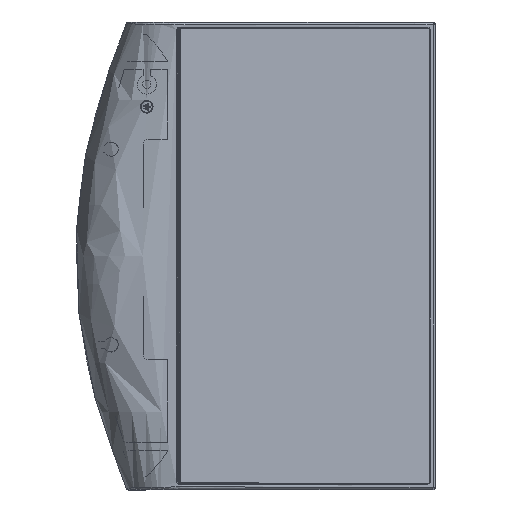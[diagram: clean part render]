
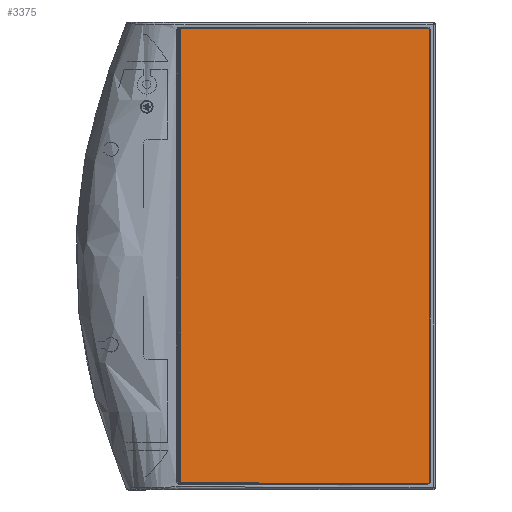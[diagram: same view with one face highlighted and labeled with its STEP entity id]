
A CAD part, top view. The second image highlights one B-rep face of the part: STEP entity #3375.
In plain terms, the highlighted planar face has unit normal (0.087, 0, 0.996).
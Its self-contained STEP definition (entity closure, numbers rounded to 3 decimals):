
#1645=PLANE('',#30589);
#3375=ADVANCED_FACE('',(#4993),#1645,.T.);
#4993=FACE_OUTER_BOUND('',#6684,.T.);
#6684=EDGE_LOOP('',(#10178,#10179,#10180,#10181));
#10178=ORIENTED_EDGE('',*,*,#17154,.F.);
#10179=ORIENTED_EDGE('',*,*,#17158,.F.);
#10180=ORIENTED_EDGE('',*,*,#17157,.T.);
#10181=ORIENTED_EDGE('',*,*,#17156,.T.);
#17154=EDGE_CURVE('',#27090,#27096,#21853,.T.);
#17156=EDGE_CURVE('',#27098,#27096,#21855,.T.);
#17157=EDGE_CURVE('',#27092,#27098,#21856,.T.);
#17158=EDGE_CURVE('',#27092,#27090,#21857,.T.);
#21853=B_SPLINE_CURVE_WITH_KNOTS('',1,(#49132,#49133),.UNSPECIFIED.,.F.,
 .F.,(2,2),(-188.876,0.),.UNSPECIFIED.);
#21855=B_SPLINE_CURVE_WITH_KNOTS('',1,(#49136,#49137),.UNSPECIFIED.,.F.,
 .F.,(2,2),(-104.,0.),.UNSPECIFIED.);
#21856=B_SPLINE_CURVE_WITH_KNOTS('',1,(#49138,#49139),.UNSPECIFIED.,.F.,
 .F.,(2,2),(-188.876,0.),.UNSPECIFIED.);
#21857=B_SPLINE_CURVE_WITH_KNOTS('',1,(#49140,#49141),.UNSPECIFIED.,.F.,
 .F.,(2,2),(0.,104.),.UNSPECIFIED.);
#27090=VERTEX_POINT('',#49090);
#27092=VERTEX_POINT('',#49092);
#27096=VERTEX_POINT('',#49096);
#27098=VERTEX_POINT('',#49098);
#30589=AXIS2_PLACEMENT_3D('',#49072,#32981,$);
#32981=DIRECTION('',(0.087,0.,0.996));
#49072=CARTESIAN_POINT('',(3.685,-209.901,600.9));
#49090=CARTESIAN_POINT('',(117.94,-1.868,590.904));
#49092=CARTESIAN_POINT('',(14.336,-1.868,599.968));
#49096=CARTESIAN_POINT('',(117.94,-190.744,590.904));
#49098=CARTESIAN_POINT('',(14.336,-190.744,599.968));
#49132=CARTESIAN_POINT('',(117.94,-1.868,590.904));
#49133=CARTESIAN_POINT('',(117.94,-190.744,590.904));
#49136=CARTESIAN_POINT('',(14.336,-190.744,599.968));
#49137=CARTESIAN_POINT('',(117.94,-190.744,590.904));
#49138=CARTESIAN_POINT('',(14.336,-1.868,599.968));
#49139=CARTESIAN_POINT('',(14.336,-190.744,599.968));
#49140=CARTESIAN_POINT('',(14.336,-1.868,599.968));
#49141=CARTESIAN_POINT('',(117.94,-1.868,590.904));
